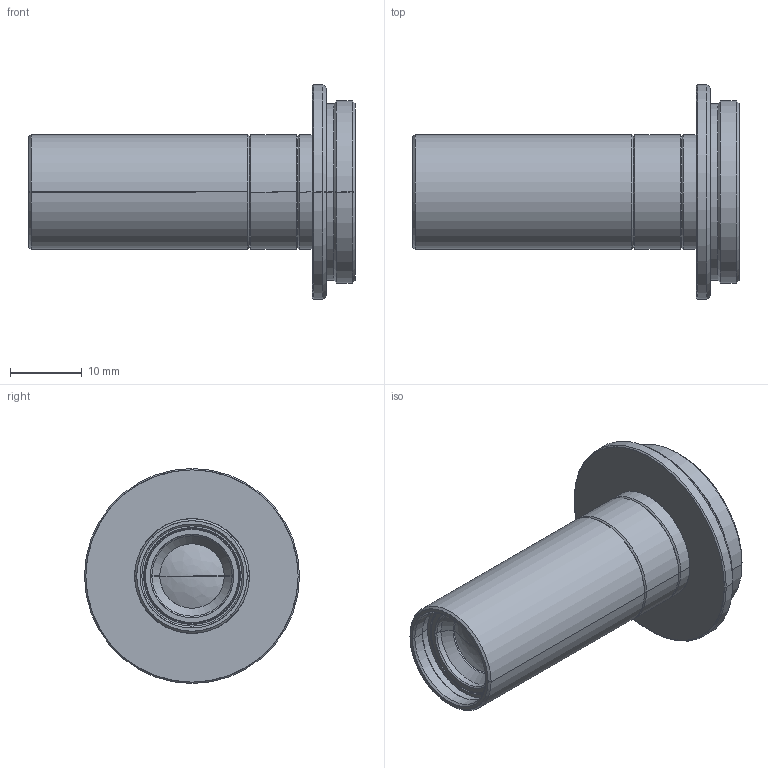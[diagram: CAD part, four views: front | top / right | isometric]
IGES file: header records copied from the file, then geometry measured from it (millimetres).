
Start section: SolidWorks IGES file using analytic representation for surfaces
Bounding box: 45.5 x 30 x 30 mm (x, y, z)
Surface area: 4303.1 mm2 (no closed solid volume)
Topology: 0 solids, 0 shells, 63 faces, 704 edges, 703 vertices
Faces by surface type: revolution 56, bspline 7
